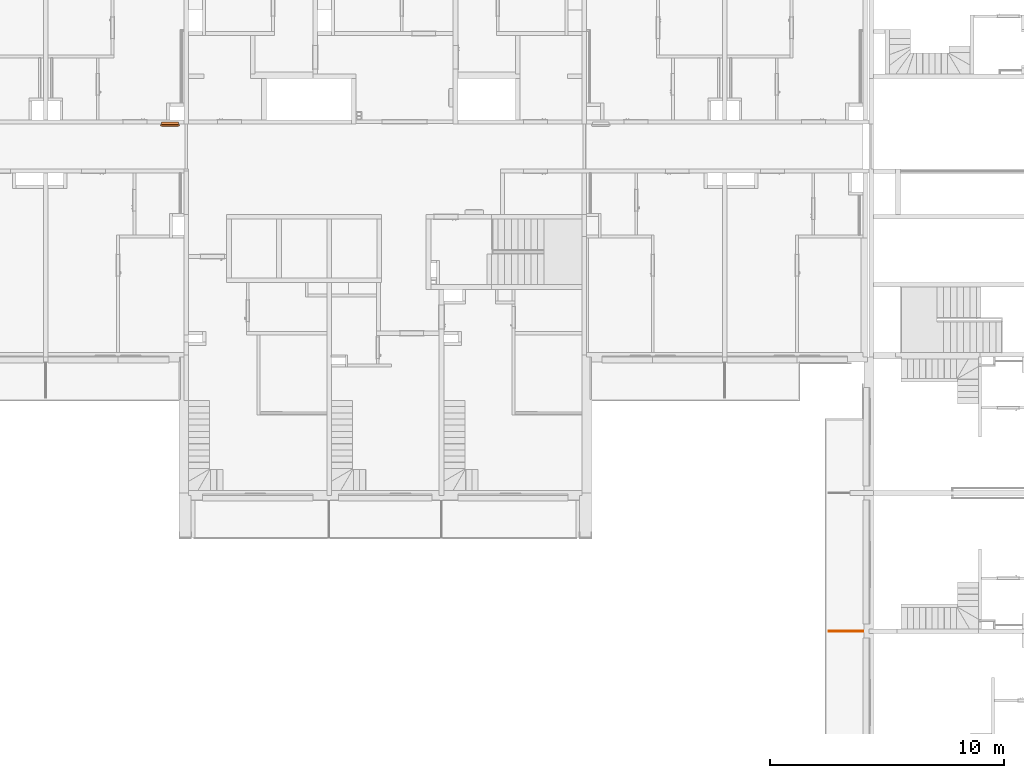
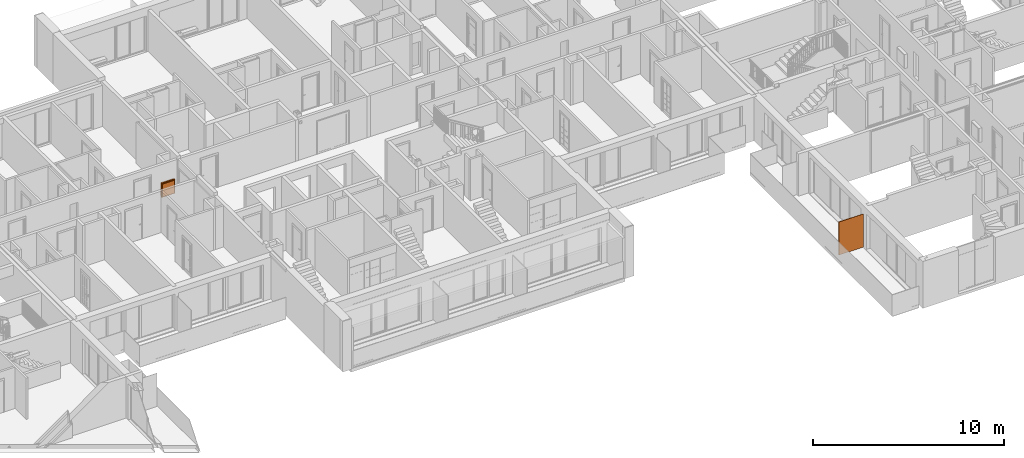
# One storey, part 20 of 61: 2 proxies.
"""IFC2X3 building model written with IfcOpenShell, lengths in millimetres."""

from ifc_helpers import new_model, entity, si_unit, converted_unit, derived_unit, money_unit, direction, frame, origin_with_axes, place, context, subcontext, project, spatial, polyline, outline, extrude, faceted_brep, source, transform, mapped, material, type_object, element, save


model = new_model("IFC2X3")

# Units and contexts
model_context = context("Model", 3, precision=0.01, world=origin_with_axes(), true_north=direction((0.34421633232, 0.938890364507)))
body_context = subcontext(model_context, "Body", "Model", "MODEL_VIEW")
ifc_project = project(units=[si_unit("LENGTHUNIT", "METRE", prefix="MILLI"), si_unit("AREAUNIT", "SQUARE_METRE"), si_unit("VOLUMEUNIT", "CUBIC_METRE"), converted_unit("PLANEANGLEUNIT", "DEGREE", entity("IfcPlaneAngleMeasure", 0.0174532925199), si_unit("PLANEANGLEUNIT", "RADIAN"), dimensions=[0, 0, 0, 0, 0, 0, 0]), si_unit("SOLIDANGLEUNIT", "STERADIAN"), money_unit("USD"), converted_unit("TIMEUNIT", "Year", entity("IfcTimeMeasure", 31556926.0), si_unit("TIMEUNIT", "SECOND"), dimensions=[0, 0, 1, 0, 0, 0, 0]), si_unit("MASSUNIT", "GRAM", prefix="KILO"), si_unit("THERMODYNAMICTEMPERATUREUNIT", "DEGREE_CELSIUS"), si_unit("LUMINOUSINTENSITYUNIT", "LUMEN"), si_unit("ENERGYUNIT", "JOULE", prefix="MEGA"), derived_unit("THERMALCONDUCTANCEUNIT", [(si_unit("POWERUNIT", "WATT"), 1), (si_unit("LENGTHUNIT", "METRE"), -1), (si_unit("THERMODYNAMICTEMPERATUREUNIT", "KELVIN"), -1)]), derived_unit("SPECIFICHEATCAPACITYUNIT", [(si_unit("ENERGYUNIT", "JOULE"), 1), (si_unit("MASSUNIT", "GRAM", prefix="KILO"), -1), (si_unit("THERMODYNAMICTEMPERATUREUNIT", "KELVIN"), -1)]), derived_unit("MASSDENSITYUNIT", [(si_unit("MASSUNIT", "GRAM", prefix="KILO"), 1), (si_unit("VOLUMEUNIT", "CUBIC_METRE"), -1)])], contexts=[model_context])

# Site, building, storey
site_placement = place(None, origin_with_axes())
site = spatial("IfcSite", under=ifc_project, at=site_placement, Name="USTRONIE MORSKIE", CompositionType="ELEMENT")
building_placement = place(site_placement, origin_with_axes())
building = spatial("IfcBuilding", under=site, at=building_placement, Name="Budynek", CompositionType="ELEMENT")
storey_placement = place(building_placement, frame((0.0, 0.0, 13000.0), z_axis=(0.0, 0.0, 1.0), x_axis=(1.0, 0.0, 0.0)))
storey = spatial("IfcBuildingStorey", under=building, at=storey_placement, Name="PIĘTRO 4", CompositionType="ELEMENT", Elevation=13000.0)

# Proxies
ifc_material = material(Name="Woda")
building_element_proxy_type_1 = type_object("IfcBuildingElementProxyType", Name="Woda 30", PredefinedType="NOTDEFINED")
proxy_1_placement = place(storey_placement, frame((408237.884527, 715101.199004, 20.0), z_axis=(0.0, 0.0, 1.0), x_axis=(-0.99999999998, -6.33272493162e-06, 0.0)))
element("IfcBuildingElementProxy", 1, at=proxy_1_placement, inside=storey, type_object=building_element_proxy_type_1, material=ifc_material, Name="Œciana-007", context=body_context, shape_type="SweptSolid", body=[
    extrude(outline(polyline([(0.0, -14.9999999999), (1490.00000003, -14.9999999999), (1490.00000003, 15.0000000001), (0.0, 15.0000000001), (0.0, -14.9999999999)])), origin_with_axes(), (0.0, 0.0, 1.0), 2120.0),
])
building_element_proxy_type_2 = type_object("IfcBuildingElementProxyType", Name="Skrzynka P-Poż 23", PredefinedType="NOTDEFINED")
shared_shape = source(origin_with_axes(), body_context, "Body", "Brep", [
    faceted_brep([(0.0, 100.0, 0.0), (0.0, 20.0, 0.0), (-800.0, 20.0, 0.0), (-800.0, 100.0, 0.0), (0.0, 100.0, 900.0), (0.0, 20.0, 900.0), (-800.0, 20.0, 900.0), (-60.0, 20.0, 60.0), (-740.0, 20.0, 60.0), (-740.0, 20.0, 840.0), (-60.0, 20.0, 840.0), (-800.0, 100.0, 900.0), (-60.0, 100.0, 60.0), (-60.0, 100.0, 840.0), (-740.0, 100.0, 840.0), (-740.0, 100.0, 60.0)], [[[0, 1, 2, 3]], [[4, 5, 1, 0]], [[1, 5, 6, 2], [7, 8, 9, 10]], [[3, 2, 6, 11]], [[0, 3, 11, 4], [12, 13, 14, 15]], [[11, 6, 5, 4]], [[15, 8, 7, 12]], [[14, 9, 8, 15]], [[13, 10, 9, 14]], [[12, 7, 10, 13]]]),
    faceted_brep([(-40.0, 20.0, 40.0), (-40.0, 0.0, 40.0), (-760.0, 0.0, 40.0), (-760.0, 20.0, 40.0), (-40.0, 20.0, 860.0), (-40.0, 0.0, 860.0), (-760.0, 0.0, 860.0), (-80.0, 0.0, 80.0), (-720.0, 0.0, 80.0), (-720.0, 0.0, 820.0), (-80.0, 0.0, 820.0), (-760.0, 20.0, 860.0), (-80.0, 20.0, 80.0), (-80.0, 20.0, 820.0), (-720.0, 20.0, 820.0), (-720.0, 20.0, 80.0)], [[[0, 1, 2, 3]], [[4, 5, 1, 0]], [[1, 5, 6, 2], [7, 8, 9, 10]], [[3, 2, 6, 11]], [[0, 3, 11, 4], [12, 13, 14, 15]], [[11, 6, 5, 4]], [[15, 8, 7, 12]], [[14, 9, 8, 15]], [[13, 10, 9, 14]], [[12, 7, 10, 13]]]),
    faceted_brep([(-40.0, 180.0, 40.0), (-40.0, 100.0, 40.0), (-760.0, 100.0, 40.0), (-760.0, 180.0, 40.0), (-40.0, 180.0, 860.0), (-40.0, 100.0, 860.0), (-760.0, 100.0, 860.0), (-60.0, 100.0, 60.0), (-740.0, 100.0, 60.0), (-740.0, 100.0, 840.0), (-60.0, 100.0, 840.0), (-760.0, 180.0, 860.0), (-60.0, 180.0, 60.0), (-60.0, 180.0, 840.0), (-740.0, 180.0, 840.0), (-740.0, 180.0, 60.0)], [[[0, 1, 2, 3]], [[4, 5, 1, 0]], [[1, 5, 6, 2], [7, 8, 9, 10]], [[3, 2, 6, 11]], [[0, 3, 11, 4], [12, 13, 14, 15]], [[11, 6, 5, 4]], [[15, 8, 7, 12]], [[14, 9, 8, 15]], [[13, 10, 9, 14]], [[12, 7, 10, 13]]]),
    faceted_brep([(-40.0, 200.0, 40.0), (-40.0, 180.0, 40.0), (-760.0, 180.0, 40.0), (-760.0, 200.0, 40.0), (-40.0, 200.0, 860.0), (-40.0, 180.0, 860.0), (-760.0, 180.0, 860.0), (-760.0, 200.0, 860.0)], [[[0, 1, 2, 3]], [[4, 5, 1, 0]], [[1, 5, 6, 2]], [[3, 2, 6, 7]], [[0, 3, 7, 4]], [[7, 6, 5, 4]]]),
    faceted_brep([(-80.0, 15.0, 80.0), (-80.0, 5.0, 80.0), (-720.0, 5.0, 80.0), (-720.0, 15.0, 80.0), (-80.0, 15.0, 820.0), (-80.0, 5.0, 820.0), (-720.0, 5.0, 820.0), (-720.0, 15.0, 820.0)], [[[0, 1, 2, 3]], [[4, 5, 1, 0]], [[1, 5, 6, 2]], [[3, 2, 6, 7]], [[0, 3, 7, 4]], [[7, 6, 5, 4]]]),
    faceted_brep([(-749.659258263, 0.0, 447.411809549), (-750.0, 0.0, 450.0), (-749.659258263, 0.0, 452.588190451), (-748.660254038, 0.0, 455.0), (-747.071067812, 0.0, 457.071067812), (-745.0, 0.0, 458.660254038), (-742.588190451, 0.0, 459.659258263), (-740.0, 0.0, 460.0), (-737.411809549, 0.0, 459.659258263), (-735.0, 0.0, 458.660254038), (-732.928932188, 0.0, 457.071067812), (-731.339745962, 0.0, 455.0), (-730.340741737, 0.0, 452.588190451), (-730.0, 0.0, 450.0), (-730.340741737, 0.0, 447.411809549), (-731.339745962, 0.0, 445.0), (-732.928932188, 0.0, 442.928932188), (-735.0, 0.0, 441.339745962), (-737.411809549, 0.0, 440.340741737), (-740.0, 0.0, 440.0), (-742.588190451, 0.0, 440.340741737), (-745.0, 0.0, 441.339745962), (-747.071067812, 0.0, 442.928932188), (-748.660254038, 0.0, 445.0), (-749.659258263, -2.0, 447.411809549), (-750.0, -2.0, 450.0), (-749.659258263, -2.0, 452.588190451), (-748.660254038, -2.0, 455.0), (-747.071067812, -2.0, 457.071067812), (-745.0, -2.0, 458.660254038), (-742.588190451, -2.0, 459.659258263), (-740.0, -2.0, 460.0), (-737.411809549, -2.0, 459.659258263), (-735.0, -2.0, 458.660254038), (-732.928932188, -2.0, 457.071067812), (-731.339745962, -2.0, 455.0), (-730.340741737, -2.0, 452.588190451), (-730.0, -2.0, 450.0), (-730.340741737, -2.0, 447.411809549), (-731.339745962, -2.0, 445.0), (-732.928932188, -2.0, 442.928932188), (-735.0, -2.0, 441.339745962), (-737.411809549, -2.0, 440.340741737), (-740.0, -2.0, 440.0), (-742.588190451, -2.0, 440.340741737), (-745.0, -2.0, 441.339745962), (-747.071067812, -2.0, 442.928932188), (-748.660254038, -2.0, 445.0)], [[[0, 1, 2, 3, 4, 5, 6, 7, 8, 9, 10, 11, 12, 13, 14, 15, 16, 17, 18, 19, 20, 21, 22, 23]], [[0, 24, 25, 1]], [[1, 25, 26, 2]], [[2, 26, 27, 3]], [[3, 27, 28, 4]], [[4, 28, 29, 5]], [[5, 29, 30, 6]], [[6, 30, 31, 7]], [[7, 31, 32, 8]], [[8, 32, 33, 9]], [[9, 33, 34, 10]], [[10, 34, 35, 11]], [[11, 35, 36, 12]], [[12, 36, 37, 13]], [[13, 37, 38, 14]], [[14, 38, 39, 15]], [[15, 39, 40, 16]], [[16, 40, 41, 17]], [[17, 41, 42, 18]], [[18, 42, 43, 19]], [[19, 43, 44, 20]], [[20, 44, 45, 21]], [[21, 45, 46, 22]], [[22, 46, 47, 23]], [[23, 47, 24, 0]], [[24, 47, 46, 45, 44, 43, 42, 41, 40, 39, 38, 37, 36, 35, 34, 33, 32, 31, 30, 29, 28, 27, 26, 25]]]),
    faceted_brep([(-39.8977774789, 16.2235428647, 80.0), (-40.0, 17.0, 80.0), (-39.8977774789, 17.7764571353, 80.0), (-39.5980762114, 18.5, 80.0), (-39.1213203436, 19.1213203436, 80.0), (-38.5, 19.5980762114, 80.0), (-37.7764571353, 19.8977774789, 80.0), (-37.0, 20.0, 80.0), (-36.2235428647, 19.8977774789, 80.0), (-35.5, 19.5980762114, 80.0), (-34.8786796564, 19.1213203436, 80.0), (-34.4019237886, 18.5, 80.0), (-34.1022225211, 17.7764571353, 80.0), (-34.0, 17.0, 80.0), (-34.1022225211, 16.2235428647, 80.0), (-34.4019237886, 15.5, 80.0), (-34.8786796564, 14.8786796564, 80.0), (-35.5, 14.4019237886, 80.0), (-36.2235428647, 14.1022225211, 80.0), (-37.0, 14.0, 80.0), (-37.7764571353, 14.1022225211, 80.0), (-38.5, 14.4019237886, 80.0), (-39.1213203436, 14.8786796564, 80.0), (-39.5980762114, 15.5, 80.0), (-39.8977774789, 16.2235428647, 120.0), (-40.0, 17.0, 120.0), (-39.8977774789, 17.7764571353, 120.0), (-39.5980762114, 18.5, 120.0), (-39.1213203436, 19.1213203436, 120.0), (-38.5, 19.5980762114, 120.0), (-37.7764571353, 19.8977774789, 120.0), (-37.0, 20.0, 120.0), (-36.2235428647, 19.8977774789, 120.0), (-35.5, 19.5980762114, 120.0), (-34.8786796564, 19.1213203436, 120.0), (-34.4019237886, 18.5, 120.0), (-34.1022225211, 17.7764571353, 120.0), (-34.0, 17.0, 120.0), (-34.1022225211, 16.2235428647, 120.0), (-34.4019237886, 15.5, 120.0), (-34.8786796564, 14.8786796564, 120.0), (-35.5, 14.4019237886, 120.0), (-36.2235428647, 14.1022225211, 120.0), (-37.0, 14.0, 120.0), (-37.7764571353, 14.1022225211, 120.0), (-38.5, 14.4019237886, 120.0), (-39.1213203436, 14.8786796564, 120.0), (-39.5980762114, 15.5, 120.0)], [[[0, 1, 2, 3, 4, 5, 6, 7, 8, 9, 10, 11, 12, 13, 14, 15, 16, 17, 18, 19, 20, 21, 22, 23]], [[0, 24, 25, 1]], [[1, 25, 26, 2]], [[2, 26, 27, 3]], [[3, 27, 28, 4]], [[4, 28, 29, 5]], [[5, 29, 30, 6]], [[6, 30, 31, 7]], [[7, 31, 32, 8]], [[8, 32, 33, 9]], [[9, 33, 34, 10]], [[10, 34, 35, 11]], [[11, 35, 36, 12]], [[12, 36, 37, 13]], [[13, 37, 38, 14]], [[14, 38, 39, 15]], [[15, 39, 40, 16]], [[16, 40, 41, 17]], [[17, 41, 42, 18]], [[18, 42, 43, 19]], [[19, 43, 44, 20]], [[20, 44, 45, 21]], [[21, 45, 46, 22]], [[22, 46, 47, 23]], [[23, 47, 24, 0]], [[24, 47, 46, 45, 44, 43, 42, 41, 40, 39, 38, 37, 36, 35, 34, 33, 32, 31, 30, 29, 28, 27, 26, 25]]]),
    faceted_brep([(-39.8977774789, 16.2235428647, 780.0), (-40.0, 17.0, 780.0), (-39.8977774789, 17.7764571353, 780.0), (-39.5980762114, 18.5, 780.0), (-39.1213203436, 19.1213203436, 780.0), (-38.5, 19.5980762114, 780.0), (-37.7764571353, 19.8977774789, 780.0), (-37.0, 20.0, 780.0), (-36.2235428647, 19.8977774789, 780.0), (-35.5, 19.5980762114, 780.0), (-34.8786796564, 19.1213203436, 780.0), (-34.4019237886, 18.5, 780.0), (-34.1022225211, 17.7764571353, 780.0), (-34.0, 17.0, 780.0), (-34.1022225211, 16.2235428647, 780.0), (-34.4019237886, 15.5, 780.0), (-34.8786796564, 14.8786796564, 780.0), (-35.5, 14.4019237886, 780.0), (-36.2235428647, 14.1022225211, 780.0), (-37.0, 14.0, 780.0), (-37.7764571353, 14.1022225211, 780.0), (-38.5, 14.4019237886, 780.0), (-39.1213203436, 14.8786796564, 780.0), (-39.5980762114, 15.5, 780.0), (-39.8977774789, 16.2235428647, 820.0), (-40.0, 17.0, 820.0), (-39.8977774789, 17.7764571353, 820.0), (-39.5980762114, 18.5, 820.0), (-39.1213203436, 19.1213203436, 820.0), (-38.5, 19.5980762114, 820.0), (-37.7764571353, 19.8977774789, 820.0), (-37.0, 20.0, 820.0), (-36.2235428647, 19.8977774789, 820.0), (-35.5, 19.5980762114, 820.0), (-34.8786796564, 19.1213203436, 820.0), (-34.4019237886, 18.5, 820.0), (-34.1022225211, 17.7764571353, 820.0), (-34.0, 17.0, 820.0), (-34.1022225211, 16.2235428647, 820.0), (-34.4019237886, 15.5, 820.0), (-34.8786796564, 14.8786796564, 820.0), (-35.5, 14.4019237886, 820.0), (-36.2235428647, 14.1022225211, 820.0), (-37.0, 14.0, 820.0), (-37.7764571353, 14.1022225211, 820.0), (-38.5, 14.4019237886, 820.0), (-39.1213203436, 14.8786796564, 820.0), (-39.5980762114, 15.5, 820.0)], [[[0, 1, 2, 3, 4, 5, 6, 7, 8, 9, 10, 11, 12, 13, 14, 15, 16, 17, 18, 19, 20, 21, 22, 23]], [[0, 24, 25, 1]], [[1, 25, 26, 2]], [[2, 26, 27, 3]], [[3, 27, 28, 4]], [[4, 28, 29, 5]], [[5, 29, 30, 6]], [[6, 30, 31, 7]], [[7, 31, 32, 8]], [[8, 32, 33, 9]], [[9, 33, 34, 10]], [[10, 34, 35, 11]], [[11, 35, 36, 12]], [[12, 36, 37, 13]], [[13, 37, 38, 14]], [[14, 38, 39, 15]], [[15, 39, 40, 16]], [[16, 40, 41, 17]], [[17, 41, 42, 18]], [[18, 42, 43, 19]], [[19, 43, 44, 20]], [[20, 44, 45, 21]], [[21, 45, 46, 22]], [[22, 46, 47, 23]], [[23, 47, 24, 0]], [[24, 47, 46, 45, 44, 43, 42, 41, 40, 39, 38, 37, 36, 35, 34, 33, 32, 31, 30, 29, 28, 27, 26, 25]]]),
])
proxy_2_placement = place(storey_placement, frame((379017.937739, 736651.199036, 600.0), z_axis=(0.0, 0.0, 1.0), x_axis=(1.0, 0.0, 0.0)))
element("IfcBuildingElementProxy", 2, at=proxy_2_placement, inside=storey, type_object=building_element_proxy_type_2, Name="OB3", context=body_context, shape_type="MappedRepresentation", body=[
    mapped(shared_shape, transform((0.0, 0.0, 0.0))),
])

save(model, "model.ifc")
